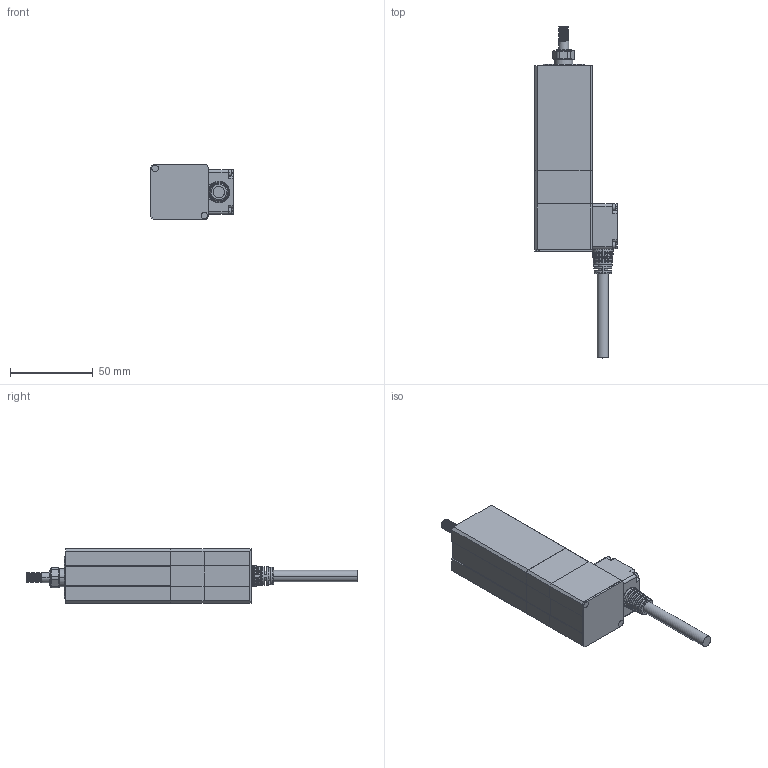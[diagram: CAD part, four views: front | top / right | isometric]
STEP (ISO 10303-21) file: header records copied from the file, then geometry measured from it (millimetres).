
FILE_DESCRIPTION (( 'STEP AP203' ), '1' );
FILE_NAME ('RCEA-3M-030-C-W-F_潠眢耀倰V1.0_20250311.STEP', '2025-03-11T06:01:07', ( '' ), ( '' ), 'SwSTEP 2.0', 'SolidWorks 2020', '' );
FILE_SCHEMA (( 'CONFIG_CONTROL_DESIGN' ));
Length unit declared in the file: millimetre
Products named in the file (4): Group2^RCEA-3M-030-w; RCEA-3M-030-C-W-F_潠眢耀倰V1.0_20250311; Group3^RCEA-3M-030-w; Group1^RCEA-3M-030-w
Assembly tree (3 placements, depth 2):
  RCEA-3M-030-C-W-F_潠眢耀倰V1.0_20250311
    Group1^RCEA-3M-030-w
    Group2^RCEA-3M-030-w
    Group3^RCEA-3M-030-w
Bounding box: 49.85 x 200.5 x 33 mm (x, y, z)
Volume: 113159.9 mm3; surface area: 39363.1 mm2
Topology: 16 solids, 20 shells, 773 faces, 1962 edges, 1250 vertices
Faces by surface type: plane 296, cylinder 295, cone 112, bspline 37, torus 33
Entity records: 27193 total; most frequent: CARTESIAN_POINT 8419, ORIENTED_EDGE 3872, DIRECTION 3820, EDGE_CURVE 1936, AXIS2_PLACEMENT_3D 1400, VERTEX_POINT 1250, VECTOR 1020, LINE 1020
